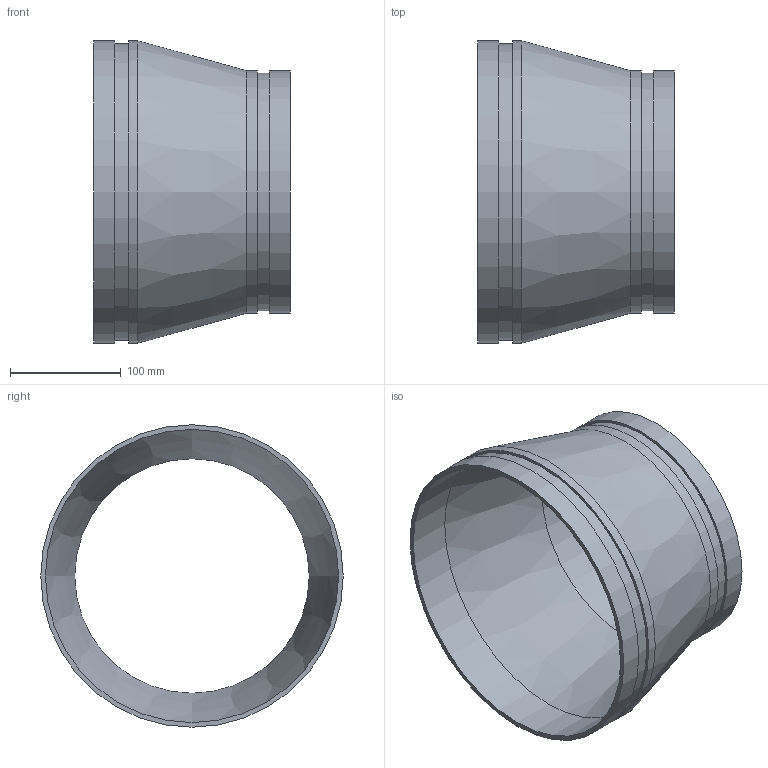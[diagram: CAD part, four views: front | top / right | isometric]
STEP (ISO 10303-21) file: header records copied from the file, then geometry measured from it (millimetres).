
FILE_DESCRIPTION(/* description */ ('VIC REDUCER CONCENTRIC No 450-SS','CAx-IF Rec.Pracs.---Representation and Presentation of Product Manufacturing Information (PMI)---4.0---2014-10-13'),/* implementation_level */ '2;1');
FILE_NAME(/* name */ 'C:\Users\kkamble\AppData\Roaming\Autodesk\ApplicationPlugins\Back Up\Victaulic_SS-OGS_Reducer Concentric_Sched 10S_No 450 SS (OGS)\Victaulic_SS-OGS_Reducer Concentric_Sched 10S_No 450 SS (OGS)_10.0x08.0 (250x200).stp',/* time_stamp */ '2020-09-08T12:33:59+05:00',/* author */ ('CORINNE GRAY'),/* organization */ ('Victaulic'),/* preprocessor_version */ 'ST-DEVELOPER v17.2',/* originating_system */ 'Autodesk Inventor 2019',/* authorisation */ '');
FILE_SCHEMA (('AP242_MANAGED_MODEL_BASED_3D_ENGINEERING_MIM_LF { 1 0 10303 442 1 1 4 }'));
Length unit declared in the file: inch
Products named in the file (1): 450 SS-10.0x08.0
Bounding box: 177.8 x 273.05 x 273.05 mm (x, y, z)
Volume: 495306.7 mm3; surface area: 288904.8 mm2
Topology: 1 solids, 1 shells, 16 faces, 42 edges, 32 vertices
Faces by surface type: cylinder 8, plane 6, cone 2
Full cylindrical faces by diameter (mm): 211.582 x1, 214.401 x1, 219.075 x2, 264.668 x1, 268.275 x1, 273.05 x2
Entity records: 686 total; most frequent: DIRECTION 134, CARTESIAN_POINT 108, ORIENTED_EDGE 84, AXIS2_PLACEMENT_3D 62, EDGE_CURVE 42, CIRCLE 32, VERTEX_POINT 32, EDGE_LOOP 22
